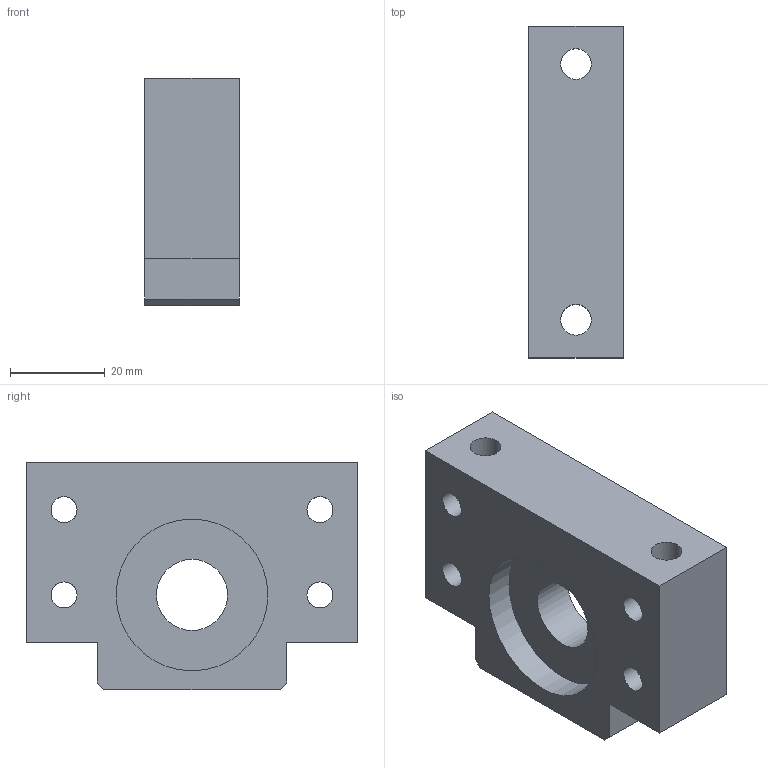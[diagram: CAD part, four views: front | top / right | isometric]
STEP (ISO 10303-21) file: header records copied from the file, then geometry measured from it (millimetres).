
FILE_DESCRIPTION(/* description */ (''),/* implementation_level */ '2;1');
FILE_NAME(/* name */ 'BF15.stp',/* time_stamp */ '2019-07-31T08:58:41+08:00',/* author */ (''),/* organization */ (''),/* preprocessor_version */ 'ST-DEVELOPER v14',/* originating_system */ 'SIEMENS PLM Software NX 8.0',/* authorisation */ '');
FILE_SCHEMA (('AUTOMOTIVE_DESIGN { 1 0 10303 214 3 1 1 1 }'));
Length unit declared in the file: millimetre
Products named in the file (3): 7002; BF15-A; BF15
Assembly tree (2 placements, depth 2):
  BF15
    BF15-A
    7002
Bounding box: 20 x 70 x 48 mm (x, y, z)
Volume: 46052.3 mm3; surface area: 16017.1 mm2
Topology: 2 solids, 2 shells, 31 faces, 92 edges, 63 vertices
Faces by surface type: plane 16, cylinder 15
Full cylindrical faces by diameter (mm): 5.5 x8, 6.5 x2, 11 x2, 15 x1, 32 x2
Entity records: 1512 total; most frequent: CARTESIAN_POINT 720, DIRECTION 142, ORIENTED_EDGE 120, EDGE_LOOP 72, FACE_BOUND 65, EDGE_CURVE 60, AXIS2_PLACEMENT_3D 56, VERTEX_POINT 50
